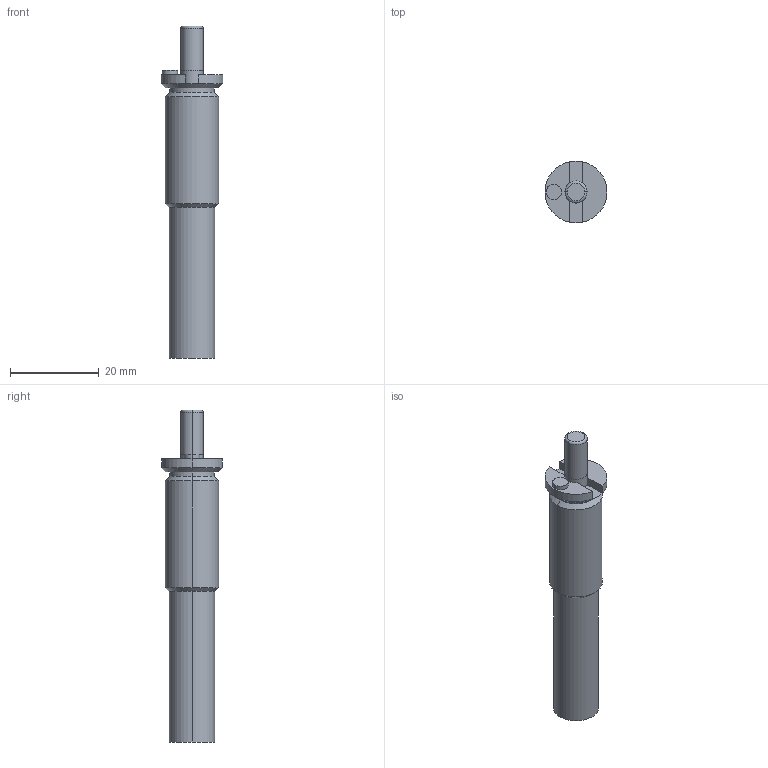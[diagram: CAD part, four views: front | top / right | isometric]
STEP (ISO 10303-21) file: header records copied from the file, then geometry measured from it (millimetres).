
FILE_DESCRIPTION(/* description */ (''),/* implementation_level */ '2;1');
FILE_NAME(/* name */ '3d_mgsb12-10_04559_r00.stp',/* time_stamp */ '2011-01-10T14:13:36+09:00',/* author */ ('MISUMI'),/* organization */ (''),/* preprocessor_version */ 'ST-DEVELOPER v11',/* originating_system */ 'UGS - NX 5.0',/* authorisation */ '');
FILE_SCHEMA (('CONFIG_CONTROL_DESIGN'));
Length unit declared in the file: millimetre
Products named in the file (1): 3d_mgsb12-10_04559_r00
Bounding box: 14 x 13.96 x 75 mm (x, y, z)
Volume: 6375.4 mm3; surface area: 2758.4 mm2
Topology: 1 solids, 1 shells, 36 faces, 78 edges, 46 vertices
Faces by surface type: cylinder 16, plane 12, cone 6, torus 2
Entity records: 1066 total; most frequent: DIRECTION 194, CARTESIAN_POINT 161, ORIENTED_EDGE 156, AXIS2_PLACEMENT_3D 79, EDGE_CURVE 78, VERTEX_POINT 46, CIRCLE 42, EDGE_LOOP 38
